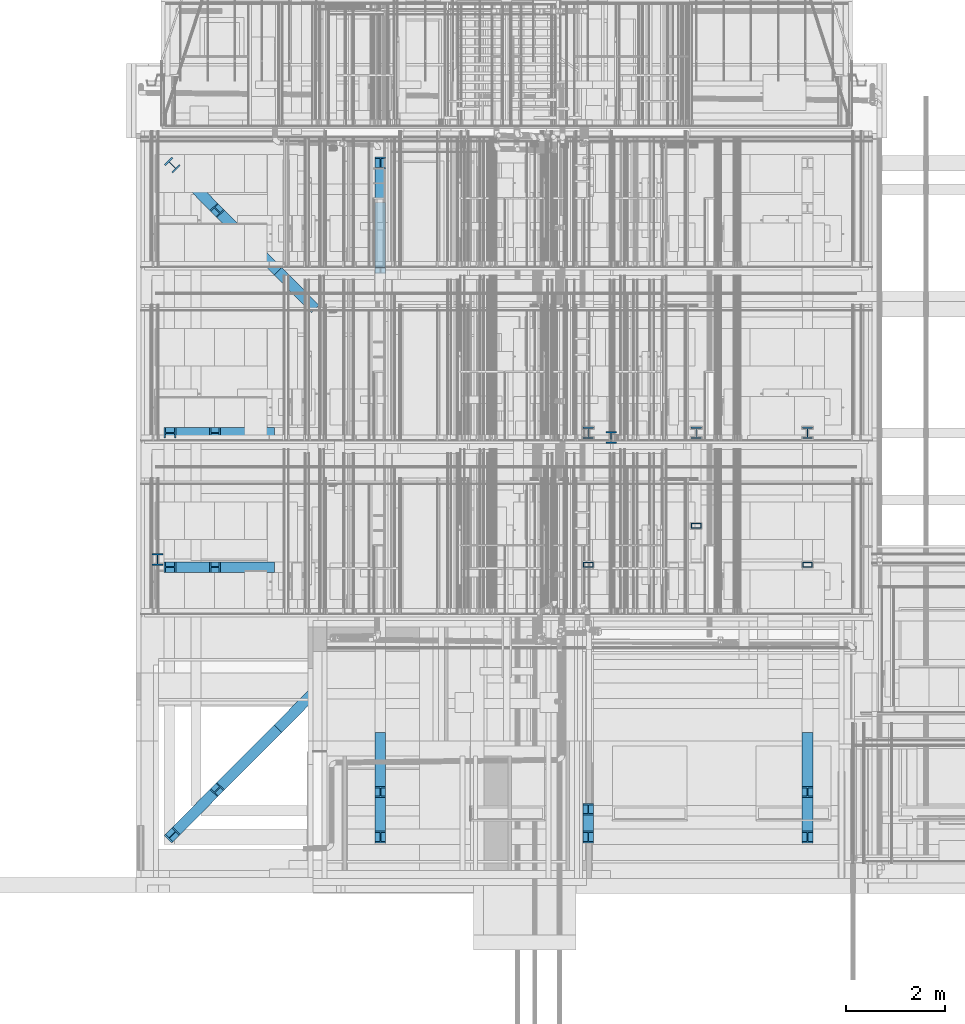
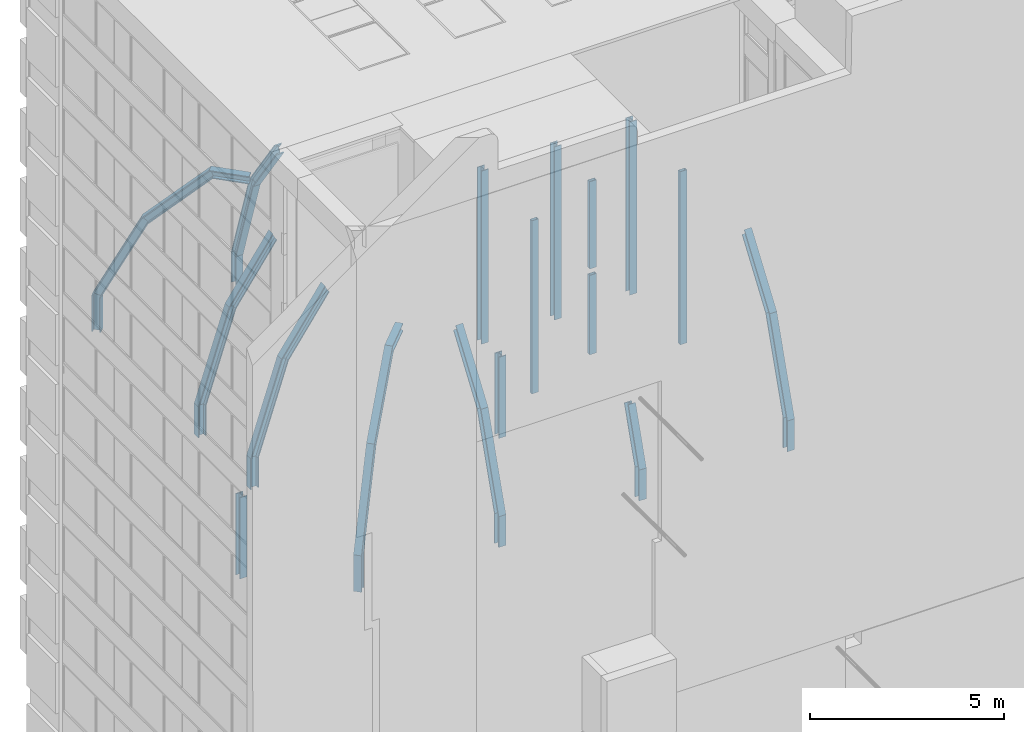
# One storey, part 1 of 583: 34 columns.
"""IFC2X3 building model written with IfcOpenShell, lengths in metres."""

from ifc_helpers import new_model, entity, si_unit, converted_unit, derived_unit, money_unit, direction, frame, origin_with_axes, place, context, subcontext, project, spatial, polyline, outline, extrude, clip, halfspace, material, type_object, element, save


model = new_model("IFC2X3")

# Units and contexts
model_context = context("Model", 3, precision=1e-05, world=origin_with_axes(), true_north=direction((0.0, 1.0)))
body_context = subcontext(model_context, "Body", "Model", "MODEL_VIEW", scale=1.0)
ifc_project = project(units=[si_unit("LENGTHUNIT", "METRE"), si_unit("AREAUNIT", "SQUARE_METRE"), si_unit("VOLUMEUNIT", "CUBIC_METRE"), si_unit("ABSORBEDDOSEUNIT", "GRAY"), si_unit("AMOUNTOFSUBSTANCEUNIT", "MOLE"), si_unit("DOSEEQUIVALENTUNIT", "SIEVERT"), si_unit("ELECTRICCAPACITANCEUNIT", "FARAD"), si_unit("ELECTRICCHARGEUNIT", "COULOMB"), si_unit("ELECTRICCONDUCTANCEUNIT", "SIEMENS"), si_unit("ELECTRICCURRENTUNIT", "AMPERE"), si_unit("ELECTRICRESISTANCEUNIT", "OHM"), si_unit("ELECTRICVOLTAGEUNIT", "VOLT"), si_unit("ENERGYUNIT", "JOULE"), si_unit("FORCEUNIT", "NEWTON"), si_unit("FREQUENCYUNIT", "HERTZ"), si_unit("ILLUMINANCEUNIT", "LUX"), si_unit("INDUCTANCEUNIT", "HENRY"), si_unit("LUMINOUSFLUXUNIT", "LUMEN"), si_unit("LUMINOUSINTENSITYUNIT", "CANDELA"), si_unit("MAGNETICFLUXDENSITYUNIT", "TESLA"), si_unit("MAGNETICFLUXUNIT", "WEBER"), si_unit("MASSUNIT", "GRAM"), converted_unit("PLANEANGLEUNIT", "degree", entity("IfcReal", 0.0174532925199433), si_unit("PLANEANGLEUNIT", "RADIAN"), dimensions=[0, 0, 0, 0, 0, 0, 0]), si_unit("POWERUNIT", "WATT"), si_unit("PRESSUREUNIT", "PASCAL"), si_unit("RADIOACTIVITYUNIT", "BECQUEREL"), si_unit("SOLIDANGLEUNIT", "STERADIAN"), si_unit("THERMODYNAMICTEMPERATUREUNIT", "KELVIN"), si_unit("TIMEUNIT", "SECOND"), derived_unit("ACCELERATIONUNIT", [(si_unit("LENGTHUNIT", "METRE"), 1), (si_unit("TIMEUNIT", "SECOND"), -2)]), derived_unit("ANGULARVELOCITYUNIT", [(converted_unit("PLANEANGLEUNIT", "degree", entity("IfcReal", 0.0174532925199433), si_unit("PLANEANGLEUNIT", "RADIAN"), dimensions=[0, 0, 0, 0, 0, 0, 0]), 1), (si_unit("TIMEUNIT", "SECOND"), -1)]), derived_unit("CURVATUREUNIT", [(converted_unit("PLANEANGLEUNIT", "degree", entity("IfcReal", 0.0174532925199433), si_unit("PLANEANGLEUNIT", "RADIAN"), dimensions=[0, 0, 0, 0, 0, 0, 0]), 1), (si_unit("LENGTHUNIT", "METRE"), -1)]), derived_unit("DYNAMICVISCOSITYUNIT", [(si_unit("PRESSUREUNIT", "PASCAL"), 1), (si_unit("TIMEUNIT", "SECOND"), 1)]), derived_unit("HEATFLUXDENSITYUNIT", [(si_unit("POWERUNIT", "WATT"), 1), (si_unit("LENGTHUNIT", "METRE"), -2)]), derived_unit("HEATINGVALUEUNIT", [(si_unit("ENERGYUNIT", "JOULE"), 1), (si_unit("MASSUNIT", "GRAM"), -1)]), derived_unit("INTEGERCOUNTRATEUNIT", [(si_unit("TIMEUNIT", "SECOND"), -1)]), derived_unit("IONCONCENTRATIONUNIT", [(si_unit("MASSUNIT", "GRAM"), 1), (si_unit("VOLUMEUNIT", "CUBIC_METRE"), -1)]), derived_unit("ISOTHERMALMOISTURECAPACITYUNIT", [(si_unit("VOLUMEUNIT", "CUBIC_METRE"), 1), (si_unit("MASSUNIT", "GRAM"), -1)]), derived_unit("KINEMATICVISCOSITYUNIT", [(si_unit("AREAUNIT", "SQUARE_METRE"), 1), (si_unit("TIMEUNIT", "SECOND"), -1)]), derived_unit("LINEARFORCEUNIT", [(si_unit("FORCEUNIT", "NEWTON"), 1), (si_unit("LENGTHUNIT", "METRE"), -1)]), derived_unit("LINEARMOMENTUNIT", [(si_unit("FORCEUNIT", "NEWTON"), 1), (si_unit("LENGTHUNIT", "METRE"), -1)]), derived_unit("LINEARSTIFFNESSUNIT", [(si_unit("FORCEUNIT", "NEWTON"), 1), (si_unit("LENGTHUNIT", "METRE"), -1)]), derived_unit("LINEARVELOCITYUNIT", [(si_unit("LENGTHUNIT", "METRE"), 1), (si_unit("TIMEUNIT", "SECOND"), -1)]), derived_unit("LUMINOUSINTENSITYDISTRIBUTIONUNIT", [(si_unit("LUMINOUSINTENSITYUNIT", "CANDELA"), 1), (si_unit("LUMINOUSFLUXUNIT", "LUMEN"), -1)]), derived_unit("MASSDENSITYUNIT", [(si_unit("MASSUNIT", "GRAM"), 1), (si_unit("VOLUMEUNIT", "CUBIC_METRE"), -1)]), derived_unit("MASSFLOWRATEUNIT", [(si_unit("MASSUNIT", "GRAM"), 1), (si_unit("TIMEUNIT", "SECOND"), -1)]), derived_unit("MASSPERLENGTHUNIT", [(si_unit("MASSUNIT", "GRAM"), 1), (si_unit("LENGTHUNIT", "METRE"), -1)]), derived_unit("MODULUSOFELASTICITYUNIT", [(si_unit("FORCEUNIT", "NEWTON"), 1), (si_unit("AREAUNIT", "SQUARE_METRE"), -1)]), derived_unit("MODULUSOFLINEARSUBGRADEREACTIONUNIT", [(si_unit("FORCEUNIT", "NEWTON"), 1), (si_unit("LENGTHUNIT", "METRE"), -2)]), derived_unit("MODULUSOFROTATIONALSUBGRADEREACTIONUNIT", [(si_unit("FORCEUNIT", "NEWTON"), 1), (si_unit("LENGTHUNIT", "METRE"), 1)]), derived_unit("MODULUSOFSUBGRADEREACTIONUNIT", [(si_unit("FORCEUNIT", "NEWTON"), 1), (si_unit("VOLUMEUNIT", "CUBIC_METRE"), -1)]), derived_unit("MOISTUREDIFFUSIVITYUNIT", [(si_unit("VOLUMEUNIT", "CUBIC_METRE"), 1), (si_unit("TIMEUNIT", "SECOND"), -1)]), derived_unit("MOLECULARWEIGHTUNIT", [(si_unit("MASSUNIT", "GRAM"), 1), (si_unit("AMOUNTOFSUBSTANCEUNIT", "MOLE"), -1)]), derived_unit("PLANARFORCEUNIT", [(si_unit("FORCEUNIT", "NEWTON"), 1), (si_unit("LENGTHUNIT", "METRE"), -2)]), derived_unit("ROTATIONALFREQUENCYUNIT", [(si_unit("TIMEUNIT", "SECOND"), -1)]), derived_unit("ROTATIONALMASSUNIT", [(si_unit("MASSUNIT", "GRAM"), 1), (si_unit("LENGTHUNIT", "METRE"), 2)]), derived_unit("ROTATIONALSTIFFNESSUNIT", [(si_unit("FORCEUNIT", "NEWTON"), 1), (si_unit("LENGTHUNIT", "METRE"), 1), (converted_unit("PLANEANGLEUNIT", "degree", entity("IfcReal", 0.0174532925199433), si_unit("PLANEANGLEUNIT", "RADIAN"), dimensions=[0, 0, 0, 0, 0, 0, 0]), -1)]), derived_unit("SECTIONAREAINTEGRALUNIT", [(si_unit("LENGTHUNIT", "METRE"), 5)]), derived_unit("SECTIONMODULUSUNIT", [(si_unit("LENGTHUNIT", "METRE"), 3)]), derived_unit("SHEARMODULUSUNIT", [(si_unit("FORCEUNIT", "NEWTON"), 1), (si_unit("AREAUNIT", "SQUARE_METRE"), -1)]), derived_unit("SOUNDPOWERUNIT", [(si_unit("ENERGYUNIT", "JOULE"), 1), (si_unit("TIMEUNIT", "SECOND"), -1)]), derived_unit("SPECIFICHEATCAPACITYUNIT", [(si_unit("FORCEUNIT", "NEWTON"), 1), (si_unit("MASSUNIT", "GRAM"), -1), (si_unit("THERMODYNAMICTEMPERATUREUNIT", "KELVIN"), -1)]), derived_unit("TEMPERATUREGRADIENTUNIT", [(si_unit("THERMODYNAMICTEMPERATUREUNIT", "KELVIN"), 1), (si_unit("LENGTHUNIT", "METRE"), -1)]), derived_unit("THERMALADMITTANCEUNIT", [(si_unit("POWERUNIT", "WATT"), 1), (si_unit("AREAUNIT", "SQUARE_METRE"), -1), (si_unit("THERMODYNAMICTEMPERATUREUNIT", "KELVIN"), -1)]), derived_unit("THERMALCONDUCTANCEUNIT", [(si_unit("POWERUNIT", "WATT"), 1), (si_unit("LENGTHUNIT", "METRE"), -1), (si_unit("THERMODYNAMICTEMPERATUREUNIT", "KELVIN"), -1)]), derived_unit("THERMALEXPANSIONCOEFFICIENTUNIT", [(si_unit("THERMODYNAMICTEMPERATUREUNIT", "KELVIN"), -1)]), derived_unit("THERMALRESISTANCEUNIT", [(si_unit("AREAUNIT", "SQUARE_METRE"), 1), (si_unit("POWERUNIT", "WATT"), -1)]), derived_unit("THERMALTRANSMITTANCEUNIT", [(si_unit("POWERUNIT", "WATT"), 1), (si_unit("AREAUNIT", "SQUARE_METRE"), -1), (si_unit("THERMODYNAMICTEMPERATUREUNIT", "KELVIN"), -1)]), derived_unit("TORQUEUNIT", [(si_unit("FORCEUNIT", "NEWTON"), 1), (si_unit("LENGTHUNIT", "METRE"), 1)]), derived_unit("VAPORPERMEABILITYUNIT", [(si_unit("MASSUNIT", "GRAM"), 1), (si_unit("TIMEUNIT", "SECOND"), -1)]), derived_unit("VOLUMETRICFLOWRATEUNIT", [(si_unit("VOLUMEUNIT", "CUBIC_METRE"), 1), (si_unit("TIMEUNIT", "SECOND"), -1)]), derived_unit("WARPINGCONSTANTUNIT", [(si_unit("LENGTHUNIT", "METRE"), 6)]), derived_unit("WARPINGMOMENTUNIT", [(si_unit("FORCEUNIT", "NEWTON"), 1), (si_unit("LENGTHUNIT", "METRE"), 2)]), money_unit("GBP")], contexts=[model_context])

# Site, building, storey
site_placement = place(None, origin_with_axes())
site = spatial("IfcSite", under=ifc_project, at=site_placement, Name="Site", CompositionType="ELEMENT")
building_placement = place(site_placement, origin_with_axes())
building = spatial("IfcBuilding", under=site, at=building_placement, Name="Building01", CompositionType="ELEMENT")
storey_placement = place(building_placement, frame((0.0, 0.0, 20.78), z_axis=(0.0, 0.0, 1.0), x_axis=(1.0, 0.0, 0.0)))
storey = spatial("IfcBuildingStorey", under=building, at=storey_placement, Name="RL", CompositionType="ELEMENT", Elevation=20.78)

# Columns
ifc_material = material(Name="A_BSUK_Columns_Steel")
column_type_1 = type_object("IfcColumnType", Name="A-Columns-Steel", PredefinedType="COLUMN")
for number, where, z_axis, x_axis, name in (
    (1, (8.98485, 8.6857, -5.85), (0.0, 0.0, 1.0), (1.0, 0.0, 0.0), "A-Columns-Steel"),
    (2, (11.15485, 8.6857, -5.85), (0.0, 0.0, 1.0), (1.0, 0.0, 0.0), "A-Columns-Steel"),
    (3, (13.39485, 8.6857, -5.85), (0.0, 0.0, 1.0), (1.0, 0.0, 0.0), "A-Columns-Steel"),
):
    element("IfcColumn", number, at=place(storey_placement, frame(where, z_axis=z_axis, x_axis=x_axis)), inside=storey, type_object=column_type_1, material=ifc_material, Name=name, ObjectType="A-Columns-Steel", context=body_context, shape_type="SweptSolid", body=[
        extrude(outline(polyline([(0.2103, 0.0), (0.2103, 0.0237), (0.1124, 0.0237), (0.1124, 0.2049), (0.2103, 0.2049), (0.2103, 0.2286), (0.0, 0.2286), (0.0, 0.2049), (0.0979, 0.2049), (0.0979, 0.0237), (0.0, 0.0237), (0.0, 0.0), (0.2103, 0.0)])), origin_with_axes(), (0.0, 0.0, 1.0), 5.4468),
    ])
column_1_placement = place(storey_placement, frame((9.09, 6.15, -5.85), z_axis=(0.0, 0.0, 1.0), x_axis=(-1.0, 0.0, 0.0)))
element("IfcColumn", 4, at=column_1_placement, inside=storey, type_object=column_type_1, material=ifc_material, Name="A-Columns-Steel", ObjectType="A-Columns-Steel", context=body_context, shape_type="SweptSolid", body=[
    extrude(outline(polyline([(-0.1, 0.05), (0.1, 0.05), (0.1, -0.05), (-0.1, -0.05), (-0.1, 0.05)]), holes=[polyline([(-0.09, 0.04), (-0.09, -0.04), (0.09, -0.04), (0.09, 0.04), (-0.09, 0.04)])]), origin_with_axes(), (0.0, 0.0, 1.0), 5.4468),
])
column_2_placement = place(storey_placement, frame((11.26, 6.93, -5.85), z_axis=(0.0, 0.0, 1.0), x_axis=(-1.0, 0.0, 0.0)))
element("IfcColumn", 5, at=column_2_placement, inside=storey, type_object=column_type_1, material=ifc_material, Name="A-Columns-Steel", ObjectType="A-Columns-Steel", context=body_context, shape_type="SweptSolid", body=[
    extrude(outline(polyline([(-0.1, 0.05), (0.1, 0.05), (0.1, -0.05), (-0.1, -0.05), (-0.1, 0.05)]), holes=[polyline([(-0.09, 0.04), (-0.09, -0.04), (0.09, -0.04), (0.09, 0.04), (-0.09, 0.04)])]), origin_with_axes(), (0.0, 0.0, 1.0), 2.4968),
])
column_3_placement = place(storey_placement, frame((11.26, 6.93, -3.15), z_axis=(0.0, 0.0, 1.0), x_axis=(-1.0, 0.0, 0.0)))
element("IfcColumn", 6, at=column_3_placement, inside=storey, type_object=column_type_1, material=ifc_material, Name="A-Columns-Steel", ObjectType="A-Columns-Steel", context=body_context, shape_type="SweptSolid", body=[
    extrude(outline(polyline([(-0.1, 0.05), (0.1, 0.05), (0.1, -0.05), (-0.1, -0.05), (-0.1, 0.05)]), holes=[polyline([(-0.09, 0.04), (-0.09, -0.04), (0.09, -0.04), (0.09, 0.04), (-0.09, 0.04)])]), origin_with_axes(), (0.0, 0.0, 1.0), 2.7468),
])
column_4_placement = place(storey_placement, frame((13.5, 6.15, -5.85), z_axis=(0.0, 0.0, 1.0), x_axis=(-1.0, 0.0, 0.0)))
element("IfcColumn", 7, at=column_4_placement, inside=storey, type_object=column_type_1, material=ifc_material, Name="A-Columns-Steel", ObjectType="A-Columns-Steel", context=body_context, shape_type="SweptSolid", body=[
    extrude(outline(polyline([(-0.1, 0.05), (0.1, 0.05), (0.1, -0.05), (-0.1, -0.05), (-0.1, 0.05)]), holes=[polyline([(-0.09, 0.04), (-0.09, -0.04), (0.09, -0.04), (0.09, 0.04), (-0.09, 0.04)])]), origin_with_axes(), (0.0, 0.0, 1.0), 5.4468),
])
column_5_placement = place(storey_placement, frame((13.39305, 0.5549, -5.85), z_axis=(0.0, 0.0, 1.0), x_axis=(1.0, 0.0, 0.0)))
element("IfcColumn", 8, at=column_5_placement, inside=storey, type_object=column_type_1, material=ifc_material, Name="A2", ObjectType="A-Columns-Steel", context=body_context, shape_type="Clipping", body=[
    clip(extrude(outline(polyline([(0.2139, 0.0), (0.2139, 0.0301), (0.116, 0.0301), (0.116, 0.2113), (0.2139, 0.2113), (0.2139, 0.2414), (0.0, 0.2414), (0.0, 0.2113), (0.0979, 0.2113), (0.0979, 0.0301), (0.0, 0.0301), (0.0, 0.0), (0.2139, 0.0)])), origin_with_axes(), (0.0, 0.0, 1.0), 0.969944), halfspace(frame((0.0, 0.149865, 0.946208), z_axis=(0.0, -0.15643447, -0.98768834), x_axis=(-1.0, 0.0, 0.0)), True)),
])
column_6_placement = place(storey_placement, frame((13.60695, 0.784485, -4.954652), z_axis=(0.0, 0.30901699, 0.95105652), x_axis=(-1.0, 0.0, 0.0)))
element("IfcColumn", 9, at=column_6_placement, inside=storey, type_object=column_type_1, material=ifc_material, Name="A2", ObjectType="A-Columns-Steel", context=body_context, shape_type="Clipping", body=[
    clip(clip(extrude(outline(polyline([(0.2139, 0.0), (0.2139, 0.0301), (0.116, 0.0301), (0.116, 0.2113), (0.2139, 0.2113), (0.2139, 0.2414), (0.0, 0.2414), (0.0, 0.2113), (0.0979, 0.2113), (0.0979, 0.0301), (0.0, 0.0301), (0.0, 0.0), (0.2139, 0.0)])), origin_with_axes(), (0.0, 0.0, 1.0), 2.966293), halfspace(frame((0.0, 0.005907, 0.037298), z_axis=(0.0, 0.15643447, 0.98768834), x_axis=(1.0, 0.0, 0.0)), True)), halfspace(frame((0.0, -0.428356, 2.866198), z_axis=(0.0, 0.14780941, -0.98901586), x_axis=(-1.0, 0.0, 0.0)), True)),
])
column_7_placement = place(storey_placement, frame((13.60695, 1.669278, -2.197404), z_axis=(0.0, 0.57357644, 0.81915204), x_axis=(-1.0, 0.0, 0.0)))
element("IfcColumn", 10, at=column_7_placement, inside=storey, type_object=column_type_1, material=ifc_material, Name="A2", ObjectType="A-Columns-Steel", context=body_context, shape_type="Clipping", body=[
    clip(clip(extrude(outline(polyline([(0.2139, 0.0), (0.2139, 0.0301), (0.116, 0.0301), (0.116, 0.2113), (0.2139, 0.2113), (0.2139, 0.2414), (0.0, 0.2414), (0.0, 0.2113), (0.0979, 0.2113), (0.0979, 0.0301), (0.0, 0.0301), (0.0, 0.0), (0.2139, 0.0)])), origin_with_axes(), (0.0, 0.0, 1.0), 2.269351), halfspace(frame((0.0, -0.878002, 1.686627), z_axis=(0.0, 0.46174861, -0.88701083), x_axis=(-1.0, 0.0, 0.0)), True)), halfspace(frame((0.0, 0.005274, 0.035289), z_axis=(0.0, 0.14780941, 0.98901586), x_axis=(1.0, 0.0, 0.0)), True)),
])
column_8_placement = place(storey_placement, frame((8.98305, 0.5549, -5.85), z_axis=(0.0, 0.0, 1.0), x_axis=(1.0, 0.0, 0.0)))
element("IfcColumn", 11, at=column_8_placement, inside=storey, type_object=column_type_1, material=ifc_material, Name="A2", ObjectType="A-Columns-Steel", context=body_context, shape_type="Clipping", body=[
    clip(extrude(outline(polyline([(0.2139, 0.0), (0.2139, 0.0301), (0.116, 0.0301), (0.116, 0.2113), (0.2139, 0.2113), (0.2139, 0.2414), (0.0, 0.2414), (0.0, 0.2113), (0.0979, 0.2113), (0.0979, 0.0301), (0.0, 0.0301), (0.0, 0.0), (0.2139, 0.0)])), origin_with_axes(), (0.0, 0.0, 1.0), 0.969944), halfspace(frame((0.0, 0.149865, 0.946208), z_axis=(0.0, -0.15643447, -0.98768834), x_axis=(-1.0, 0.0, 0.0)), True)),
])
column_9_placement = place(storey_placement, frame((9.19695, 0.784485, -4.954652), z_axis=(0.0, 0.30901699, 0.95105652), x_axis=(-1.0, 0.0, 0.0)))
element("IfcColumn", 12, at=column_9_placement, inside=storey, type_object=column_type_1, material=ifc_material, Name="A2", ObjectType="A-Columns-Steel", context=body_context, shape_type="Clipping", body=[
    clip(clip(extrude(outline(polyline([(0.2139, 0.0), (0.2139, 0.0301), (0.116, 0.0301), (0.116, 0.2113), (0.2139, 0.2113), (0.2139, 0.2414), (0.0, 0.2414), (0.0, 0.2113), (0.0979, 0.2113), (0.0979, 0.0301), (0.0, 0.0301), (0.0, 0.0), (0.2139, 0.0)])), origin_with_axes(), (0.0, 0.0, 1.0), 1.807564), halfspace(frame((0.0, 0.005907, 0.037298), z_axis=(0.0, 0.15643447, 0.98768834), x_axis=(1.0, 0.0, 0.0)), True)), halfspace(frame((0.0, -0.428356, 2.866198), z_axis=(0.0, 0.14780941, -0.98901586), x_axis=(-1.0, 0.0, 0.0)), True)),
])
column_10_placement = place(storey_placement, frame((4.80305, 0.5549, -5.85), z_axis=(0.0, 0.0, 1.0), x_axis=(1.0, 0.0, 0.0)))
element("IfcColumn", 13, at=column_10_placement, inside=storey, type_object=column_type_1, material=ifc_material, Name="A2", ObjectType="A-Columns-Steel", context=body_context, shape_type="Clipping", body=[
    clip(extrude(outline(polyline([(0.2139, 0.0), (0.2139, 0.0301), (0.116, 0.0301), (0.116, 0.2113), (0.2139, 0.2113), (0.2139, 0.2414), (0.0, 0.2414), (0.0, 0.2113), (0.0979, 0.2113), (0.0979, 0.0301), (0.0, 0.0301), (0.0, 0.0), (0.2139, 0.0)])), origin_with_axes(), (0.0, 0.0, 1.0), 0.969944), halfspace(frame((0.0, 0.149865, 0.946208), z_axis=(0.0, -0.15643447, -0.98768834), x_axis=(-1.0, 0.0, 0.0)), True)),
])
column_11_placement = place(storey_placement, frame((5.01695, 0.784485, -4.954652), z_axis=(0.0, 0.30901699, 0.95105652), x_axis=(-1.0, 0.0, 0.0)))
element("IfcColumn", 14, at=column_11_placement, inside=storey, type_object=column_type_1, material=ifc_material, Name="A2", ObjectType="A-Columns-Steel", context=body_context, shape_type="Clipping", body=[
    clip(clip(extrude(outline(polyline([(0.2139, 0.0), (0.2139, 0.0301), (0.116, 0.0301), (0.116, 0.2113), (0.2139, 0.2113), (0.2139, 0.2414), (0.0, 0.2414), (0.0, 0.2113), (0.0979, 0.2113), (0.0979, 0.0301), (0.0, 0.0301), (0.0, 0.0), (0.2139, 0.0)])), origin_with_axes(), (0.0, 0.0, 1.0), 2.966293), halfspace(frame((0.0, 0.005907, 0.037298), z_axis=(0.0, 0.15643447, 0.98768834), x_axis=(1.0, 0.0, 0.0)), True)), halfspace(frame((0.0, -0.428356, 2.866198), z_axis=(0.0, 0.14780941, -0.98901586), x_axis=(-1.0, 0.0, 0.0)), True)),
])
column_12_placement = place(storey_placement, frame((5.01695, 1.669278, -2.197404), z_axis=(0.0, 0.57357644, 0.81915204), x_axis=(-1.0, 0.0, 0.0)))
element("IfcColumn", 15, at=column_12_placement, inside=storey, type_object=column_type_1, material=ifc_material, Name="A2", ObjectType="A-Columns-Steel", context=body_context, shape_type="Clipping", body=[
    clip(clip(extrude(outline(polyline([(0.2139, 0.0), (0.2139, 0.0301), (0.116, 0.0301), (0.116, 0.2113), (0.2139, 0.2113), (0.2139, 0.2414), (0.0, 0.2414), (0.0, 0.2113), (0.0979, 0.2113), (0.0979, 0.0301), (0.0, 0.0301), (0.0, 0.0), (0.2139, 0.0)])), origin_with_axes(), (0.0, 0.0, 1.0), 2.269351), halfspace(frame((0.0, -0.878002, 1.686627), z_axis=(0.0, 0.46174861, -0.88701083), x_axis=(-1.0, 0.0, 0.0)), True)), halfspace(frame((0.0, 0.005274, 0.035289), z_axis=(0.0, 0.14780941, 0.98901586), x_axis=(1.0, 0.0, 0.0)), True)),
])
column_13_placement = place(storey_placement, frame((5.01695, 11.929076, -0.338461), z_axis=(0.0, 0.57357644, -0.81915204), x_axis=(0.0, 0.81915204, 0.57357644)))
element("IfcColumn", 16, at=column_13_placement, inside=storey, type_object=column_type_1, material=ifc_material, Name="A2", ObjectType="A-Columns-Steel", context=body_context, shape_type="Clipping", body=[
    clip(clip(extrude(outline(polyline([(0.0301, 0.0), (0.0301, -0.0979), (0.2113, -0.0979), (0.2113, 0.0), (0.2414, 0.0), (0.2414, -0.2139), (0.2113, -0.2139), (0.2113, -0.116), (0.0301, -0.116), (0.0301, -0.2139), (0.0, -0.2139), (0.0, 0.0), (0.0301, 0.0)])), origin_with_axes(), (0.0, 0.0, 1.0), 2.269351), halfspace(frame((0.051469, 0.0, 0.098872), z_axis=(0.46174861, 0.0, 0.88701083), x_axis=(0.88701083, 0.0, -0.46174861)), True)), halfspace(frame((-0.326473, 0.0, 2.184481), z_axis=(0.14780941, 0.0, -0.98901586), x_axis=(-0.98901586, 0.0, -0.14780941)), True)),
])
column_14_placement = place(storey_placement, frame((5.01695, 13.19888, -2.13354), z_axis=(0.0, 0.30901699, -0.95105652), x_axis=(0.0, 0.95105652, 0.30901699)))
element("IfcColumn", 17, at=column_14_placement, inside=storey, type_object=column_type_1, material=ifc_material, Name="A2", ObjectType="A-Columns-Steel", context=body_context, shape_type="Clipping", body=[
    clip(clip(extrude(outline(polyline([(0.0301, 0.0), (0.0301, -0.0979), (0.2113, -0.0979), (0.2113, 0.0), (0.2414, 0.0), (0.2414, -0.2139), (0.2113, -0.2139), (0.2113, -0.116), (0.0301, -0.116), (0.0301, -0.2139), (0.0, -0.2139), (0.0, 0.0), (0.0301, 0.0)])), origin_with_axes(), (0.0, 0.0, 1.0), 2.966293), halfspace(frame((-0.45241, 0.0, 2.856405), z_axis=(0.15643447, 0.0, -0.98768834), x_axis=(-0.98768834, 0.0, -0.15643447)), True)), halfspace(frame((0.005274, 0.0, 0.035289), z_axis=(0.14780941, 0.0, 0.98901586), x_axis=(0.98901586, 0.0, -0.14780941)), True)),
])
column_15_placement = place(storey_placement, frame((4.80305, 14.3451, -4.880056), z_axis=(0.0, 0.0, -1.0), x_axis=(0.0, -1.0, 0.0)))
element("IfcColumn", 18, at=column_15_placement, inside=storey, type_object=column_type_1, material=ifc_material, Name="A2", ObjectType="A-Columns-Steel", context=body_context, shape_type="Clipping", body=[
    clip(extrude(outline(polyline([(0.0301, 0.0), (0.0301, -0.0979), (0.2113, -0.0979), (0.2113, 0.0), (0.2414, 0.0), (0.2414, -0.2139), (0.2113, -0.2139), (0.2113, -0.116), (0.0301, -0.116), (0.0301, -0.2139), (0.0, -0.2139), (0.0, 0.0), (0.0301, 0.0)])), origin_with_axes(), (0.0, 0.0, 1.0), 0.969944), halfspace(frame((0.0, 0.0, 0.0), z_axis=(-0.15643447, 0.0, 0.98768834), x_axis=(0.98768834, 0.0, 0.15643447)), True)),
])
column_16_placement = place(storey_placement, frame((2.976024, 8.90695, -0.338461), z_axis=(-0.57357644, 0.0, -0.81915204), x_axis=(-0.81915204, 0.0, 0.57357644)))
element("IfcColumn", 19, at=column_16_placement, inside=storey, type_object=column_type_1, material=ifc_material, Name="A2", ObjectType="A-Columns-Steel", context=body_context, shape_type="Clipping", body=[
    clip(clip(extrude(outline(polyline([(0.0301, 0.0), (0.0301, -0.0979), (0.2113, -0.0979), (0.2113, 0.0), (0.2414, 0.0), (0.2414, -0.2139), (0.2113, -0.2139), (0.2113, -0.116), (0.0301, -0.116), (0.0301, -0.2139), (0.0, -0.2139), (0.0, 0.0), (0.0301, 0.0)])), origin_with_axes(), (0.0, 0.0, 1.0), 2.269351), halfspace(frame((0.051469, 0.0, 0.098872), z_axis=(0.46174861, 0.0, 0.88701083), x_axis=(0.88701083, 0.0, -0.46174861)), True)), halfspace(frame((-0.326473, 0.0, 2.184481), z_axis=(0.14780941, 0.0, -0.98901586), x_axis=(-0.98901586, 0.0, -0.14780941)), True)),
])
column_17_placement = place(storey_placement, frame((1.70622, 8.90695, -2.13354), z_axis=(-0.30901699, 0.0, -0.95105652), x_axis=(-0.95105652, 0.0, 0.30901699)))
element("IfcColumn", 20, at=column_17_placement, inside=storey, type_object=column_type_1, material=ifc_material, Name="A2", ObjectType="A-Columns-Steel", context=body_context, shape_type="Clipping", body=[
    clip(clip(extrude(outline(polyline([(0.0301, 0.0), (0.0301, -0.0979), (0.2113, -0.0979), (0.2113, 0.0), (0.2414, 0.0), (0.2414, -0.2139), (0.2113, -0.2139), (0.2113, -0.116), (0.0301, -0.116), (0.0301, -0.2139), (0.0, -0.2139), (0.0, 0.0), (0.0301, 0.0)])), origin_with_axes(), (0.0, 0.0, 1.0), 2.966293), halfspace(frame((-0.45241, 0.0, 2.856405), z_axis=(0.15643447, 0.0, -0.98768834), x_axis=(-0.98768834, 0.0, -0.15643447)), True)), halfspace(frame((0.005274, 0.0, 0.035289), z_axis=(0.14780941, 0.0, 0.98901586), x_axis=(0.98901586, 0.0, -0.14780941)), True)),
])
for number, where, z_axis, x_axis, name in (
    (21, (0.56, 8.69305, -4.880056), (0.0, 0.0, -1.0), (1.0, 0.0, 0.0), "A2"),
    (22, (0.56, 5.99305, -4.880056), (0.0, 0.0, -1.0), (1.0, 0.0, 0.0), "A2"),
):
    element("IfcColumn", number, at=place(storey_placement, frame(where, z_axis=z_axis, x_axis=x_axis)), inside=storey, type_object=column_type_1, material=ifc_material, Name=name, ObjectType="A-Columns-Steel", context=body_context, shape_type="Clipping", body=[
        clip(extrude(outline(polyline([(0.0301, 0.0), (0.0301, -0.0979), (0.2113, -0.0979), (0.2113, 0.0), (0.2414, 0.0), (0.2414, -0.2139), (0.2113, -0.2139), (0.2113, -0.116), (0.0301, -0.116), (0.0301, -0.2139), (0.0, -0.2139), (0.0, 0.0), (0.0301, 0.0)])), origin_with_axes(), (0.0, 0.0, 1.0), 0.969944), halfspace(frame((0.0, 0.0, 0.0), z_axis=(-0.15643447, 0.0, 0.98768834), x_axis=(0.98768834, 0.0, 0.15643447)), True)),
    ])
column_18_placement = place(storey_placement, frame((1.70622, 6.20695, -2.13354), z_axis=(-0.30901699, 0.0, -0.95105652), x_axis=(-0.95105652, 0.0, 0.30901699)))
element("IfcColumn", 23, at=column_18_placement, inside=storey, type_object=column_type_1, material=ifc_material, Name="A2", ObjectType="A-Columns-Steel", context=body_context, shape_type="Clipping", body=[
    clip(clip(extrude(outline(polyline([(0.0301, 0.0), (0.0301, -0.0979), (0.2113, -0.0979), (0.2113, 0.0), (0.2414, 0.0), (0.2414, -0.2139), (0.2113, -0.2139), (0.2113, -0.116), (0.0301, -0.116), (0.0301, -0.2139), (0.0, -0.2139), (0.0, 0.0), (0.0301, 0.0)])), origin_with_axes(), (0.0, 0.0, 1.0), 2.966293), halfspace(frame((-0.45241, 0.0, 2.856405), z_axis=(0.15643447, 0.0, -0.98768834), x_axis=(-0.98768834, 0.0, -0.15643447)), True)), halfspace(frame((0.005274, 0.0, 0.035289), z_axis=(0.14780941, 0.0, 0.98901586), x_axis=(0.98901586, 0.0, -0.14780941)), True)),
])
column_19_placement = place(storey_placement, frame((2.976024, 6.20695, -0.338461), z_axis=(-0.57357644, 0.0, -0.81915204), x_axis=(-0.81915204, 0.0, 0.57357644)))
element("IfcColumn", 24, at=column_19_placement, inside=storey, type_object=column_type_1, material=ifc_material, Name="A2", ObjectType="A-Columns-Steel", context=body_context, shape_type="Clipping", body=[
    clip(clip(extrude(outline(polyline([(0.0301, 0.0), (0.0301, -0.0979), (0.2113, -0.0979), (0.2113, 0.0), (0.2414, 0.0), (0.2414, -0.2139), (0.2113, -0.2139), (0.2113, -0.116), (0.0301, -0.116), (0.0301, -0.2139), (0.0, -0.2139), (0.0, 0.0), (0.0301, 0.0)])), origin_with_axes(), (0.0, 0.0, 1.0), 2.269351), halfspace(frame((0.051469, 0.0, 0.098872), z_axis=(0.46174861, 0.0, 0.88701083), x_axis=(0.88701083, 0.0, -0.46174861)), True)), halfspace(frame((-0.326473, 0.0, 2.184481), z_axis=(0.14780941, 0.0, -0.98901586), x_axis=(-0.98901586, 0.0, -0.14780941)), True)),
])
column_20_placement = place(storey_placement, frame((0.716605, 14.3451, -5.831), z_axis=(0.0, 0.0, 1.0), x_axis=(-0.70900839, -0.70520005, 0.0)))
element("IfcColumn", 25, at=column_20_placement, inside=storey, type_object=column_type_1, material=ifc_material, Name="A2", ObjectType="A-Columns-Steel", context=body_context, shape_type="Clipping", body=[
    clip(extrude(outline(polyline([(0.2139, 0.0), (0.2139, 0.0301), (0.116, 0.0301), (0.116, 0.2113), (0.2139, 0.2113), (0.2139, 0.2414), (0.0, 0.2414), (0.0, 0.2113), (0.0979, 0.2113), (0.0979, 0.0301), (0.0, 0.0301), (0.0, 0.0), (0.2139, 0.0)])), origin_with_axes(), (0.0, 0.0, 1.0), 1.148249), halfspace(frame((0.0, 0.254265, 1.088876), z_axis=(0.0, -0.2273944, -0.97380274), x_axis=(-1.0, 0.0, 0.0)), True)),
])
column_21_placement = place(storey_placement, frame((0.717578, 14.040803, -4.78966), z_axis=(0.31231518, -0.3140018, 0.89658357), x_axis=(0.70900839, 0.70520005, 0.0)))
element("IfcColumn", 26, at=column_21_placement, inside=storey, type_object=column_type_1, material=ifc_material, Name="A2", ObjectType="A-Columns-Steel", context=body_context, shape_type="Clipping", body=[
    clip(clip(extrude(outline(polyline([(0.2139, 0.0), (0.2139, 0.0301), (0.116, 0.0301), (0.116, 0.2113), (0.2139, 0.2113), (0.2139, 0.2414), (0.0, 0.2414), (0.0, 0.2113), (0.0979, 0.2113), (0.0979, 0.0301), (0.0, 0.0301), (0.0, 0.0), (0.2139, 0.0)])), origin_with_axes(), (0.0, 0.0, 1.0), 2.938667), halfspace(frame((0.0, -0.458557, 2.825051), z_axis=(0.0, 0.16022129, -0.98708112), x_axis=(-1.0, 0.0, 0.0)), True)), halfspace(frame((0.0, 0.012482, 0.053455), z_axis=(0.0, 0.2273944, 0.97380274), x_axis=(1.0, 0.0, 0.0)), True)),
])
column_22_placement = place(storey_placement, frame((1.603685, 13.149911, -2.21787), z_axis=(0.49626941, -0.49894945, 0.71046894), x_axis=(0.70900839, 0.70520005, 0.0)))
element("IfcColumn", 27, at=column_22_placement, inside=storey, type_object=column_type_1, material=ifc_material, Name="A2", ObjectType="A-Columns-Steel", context=body_context, shape_type="Clipping", body=[
    clip(clip(extrude(outline(polyline([(0.2139, 0.0), (0.2139, 0.0301), (0.116, 0.0301), (0.116, 0.2113), (0.2139, 0.2113), (0.2139, 0.2414), (0.0, 0.2414), (0.0, 0.2113), (0.0979, 0.2113), (0.0979, 0.0301), (0.0, 0.0301), (0.0, 0.0), (0.2139, 0.0)])), origin_with_axes(), (0.0, 0.0, 1.0), 2.601085), halfspace(frame((0.0, 0.006197, 0.038178), z_axis=(0.0, 0.16022129, 0.98708112), x_axis=(1.0, 0.0, 0.0)), True)), halfspace(frame((0.0, -0.888235, 2.130018), z_axis=(0.0, 0.38488404, -0.92296494), x_axis=(-1.0, 0.0, 0.0)), True)),
])
column_23_placement = place(storey_placement, frame((2.925234, 12.124543, -0.2), z_axis=(0.70520005, -0.70900839, 0.0), x_axis=(-0.70900839, -0.70520005, 0.0)))
element("IfcColumn", 28, at=column_23_placement, inside=storey, type_object=column_type_1, material=ifc_material, Name="A2", ObjectType="A-Columns-Steel", context=body_context, shape_type="Clipping", body=[
    clip(clip(extrude(outline(polyline([(0.2139, 0.0), (0.2139, 0.0301), (0.116, 0.0301), (0.116, 0.2113), (0.2139, 0.2113), (0.2139, 0.2414), (0.0, 0.2414), (0.0, 0.2113), (0.0979, 0.2113), (0.0979, 0.0301), (0.0, 0.0301), (0.0, 0.0), (0.2139, 0.0)])), origin_with_axes(), (0.0, 0.0, 1.0), 1.065879), halfspace(frame((0.0, 0.0, 0.0), z_axis=(0.0, -0.38488404, 0.92296494), x_axis=(1.0, 0.0, 0.0)), True)), halfspace(frame((0.0, 0.0, 0.0), z_axis=(0.0, -0.15643447, 0.98768834), x_axis=(1.0, 0.0, 0.0)), True)),
])
column_24_placement = place(storey_placement, frame((3.676892, 3.531174, -0.2), z_axis=(-0.70520005, -0.70900839, 0.0), x_axis=(-0.70900839, 0.70520005, 0.0)))
element("IfcColumn", 29, at=column_24_placement, inside=storey, type_object=column_type_1, material=ifc_material, Name="A2", ObjectType="A-Columns-Steel", context=body_context, shape_type="Clipping", body=[
    clip(clip(extrude(outline(polyline([(0.2139, 0.0), (0.2139, 0.0301), (0.116, 0.0301), (0.116, 0.2113), (0.2139, 0.2113), (0.2139, 0.2414), (0.0, 0.2414), (0.0, 0.2113), (0.0979, 0.2113), (0.0979, 0.0301), (0.0, 0.0301), (0.0, 0.0), (0.2139, 0.0)])), origin_with_axes(), (0.0, 0.0, 1.0), 1.065879), halfspace(frame((0.0, 0.378637, 0.907984), z_axis=(0.0, -0.38488404, -0.92296494), x_axis=(-1.0, 0.0, 0.0)), True)), halfspace(frame((0.0, 0.164687, 1.039795), z_axis=(0.0, -0.15643447, -0.98768834), x_axis=(-1.0, 0.0, 0.0)), True)),
])
column_25_placement = place(storey_placement, frame((2.894524, 3.047899, -0.36988), z_axis=(-0.49626941, -0.49894945, -0.71046894), x_axis=(-0.50102273, -0.50372844, 0.70372855)))
element("IfcColumn", 30, at=column_25_placement, inside=storey, type_object=column_type_1, material=ifc_material, Name="A2", ObjectType="A-Columns-Steel", context=body_context, shape_type="Clipping", body=[
    clip(clip(extrude(outline(polyline([(0.0301, 0.0), (0.0301, -0.0979), (0.2113, -0.0979), (0.2113, 0.0), (0.2414, 0.0), (0.2414, -0.2139), (0.2113, -0.2139), (0.2113, -0.116), (0.0301, -0.116), (0.0301, -0.2139), (0.0, -0.2139), (0.0, 0.0), (0.0301, 0.0)])), origin_with_axes(), (0.0, 0.0, 1.0), 2.601085), halfspace(frame((-0.405168, 0.0, 2.496136), z_axis=(0.16022129, 0.0, -0.98708112), x_axis=(-0.98708112, 0.0, -0.16022129)), True)), halfspace(frame((0.03576, 0.0, 0.085754), z_axis=(0.38488404, 0.0, 0.92296494), x_axis=(0.92296494, 0.0, -0.38488404)), True)),
])
column_26_placement = place(storey_placement, frame((1.635368, 1.781943, -2.1549), z_axis=(-0.31231518, -0.3140018, -0.89658357), x_axis=(-0.63227078, -0.63568527, 0.44287459)))
element("IfcColumn", 31, at=column_26_placement, inside=storey, type_object=column_type_1, material=ifc_material, Name="A2", ObjectType="A-Columns-Steel", context=body_context, shape_type="Clipping", body=[
    clip(clip(extrude(outline(polyline([(0.0301, 0.0), (0.0301, -0.0979), (0.2113, -0.0979), (0.2113, 0.0), (0.2414, 0.0), (0.2414, -0.2139), (0.2113, -0.2139), (0.2113, -0.116), (0.0301, -0.116), (0.0301, -0.2139), (0.0, -0.2139), (0.0, 0.0), (0.0301, 0.0)])), origin_with_axes(), (0.0, 0.0, 1.0), 2.938667), halfspace(frame((0.006197, 0.0, 0.038178), z_axis=(0.16022129, 0.0, 0.98708112), x_axis=(0.98708112, 0.0, -0.16022129)), True)), halfspace(frame((-0.638248, 0.0, 2.733258), z_axis=(0.2273944, 0.0, -0.97380274), x_axis=(-0.97380274, 0.0, -0.2273944)), True)),
])
column_27_placement = place(storey_placement, frame((0.716605, 0.5549, -4.682751), z_axis=(0.0, 0.0, -1.0), x_axis=(0.70520005, 0.70900839, 0.0)))
element("IfcColumn", 32, at=column_27_placement, inside=storey, type_object=column_type_1, material=ifc_material, Name="A2", ObjectType="A-Columns-Steel", context=body_context, shape_type="Clipping", body=[
    clip(extrude(outline(polyline([(0.0301, 0.0), (0.0301, -0.0979), (0.2113, -0.0979), (0.2113, 0.0), (0.2414, 0.0), (0.2414, -0.2139), (0.2113, -0.2139), (0.2113, -0.116), (0.0301, -0.116), (0.0301, -0.2139), (0.0, -0.2139), (0.0, 0.0), (0.0301, 0.0)])), origin_with_axes(), (0.0, 0.0, 1.0), 1.148249), halfspace(frame((0.0, 0.0, 0.0), z_axis=(-0.2273944, 0.0, 0.97380274), x_axis=(0.97380274, 0.0, 0.2273944)), True)),
])
column_type_2 = type_object("IfcColumnType", Name="A-Columns:A_BSUK_Columns_Steel", PredefinedType="NOTDEFINED")
for number, where, z_axis, x_axis, name in (
    (33, (9.444748, 8.584054, -8.912522), (0.0, 0.0, 1.0), (1.0, 0.0, 0.0), "A-Columns--A_BSUK_Columns_Steel"),
    (34, (0.320001, 6.1293, -8.65), (0.0, 0.0, 1.0), (1.0, 0.0, 0.0), "A-Columns--A_BSUK_Columns_Steel"),
):
    element("IfcColumn", number, at=place(storey_placement, frame(where, z_axis=z_axis, x_axis=x_axis)), inside=storey, type_object=column_type_2, material=ifc_material, Name=name, ObjectType="A-Columns:A_BSUK_Columns_Steel", context=body_context, shape_type="SweptSolid", body=[
        extrude(outline(polyline([(0.2139, 0.0), (0.2139, 0.0301), (0.116, 0.0301), (0.116, 0.2113), (0.2139, 0.2113), (0.2139, 0.2414), (0.0, 0.2414), (0.0, 0.2113), (0.0979, 0.2113), (0.0979, 0.0301), (0.0, 0.0301), (0.0, 0.0), (0.2139, 0.0)])), origin_with_axes(), (0.0, 0.0, 1.0), 2.55),
    ])

save(model, "model.ifc")
